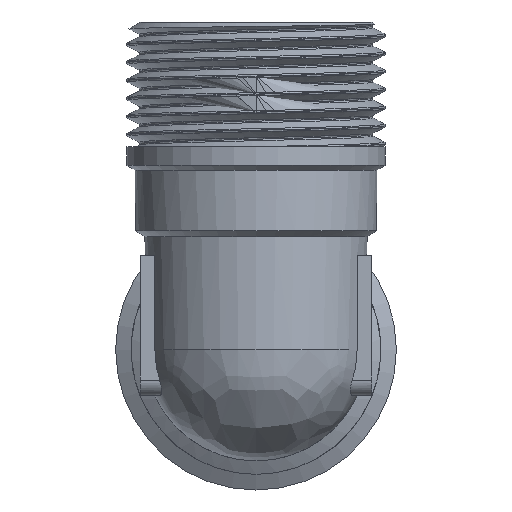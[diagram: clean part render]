
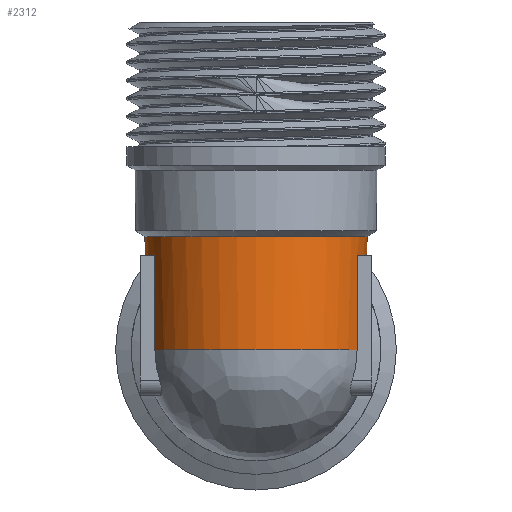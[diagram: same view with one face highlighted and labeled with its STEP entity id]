
A CAD part, front view. The second image highlights one B-rep face of the part: STEP entity #2312.
In plain terms, the highlighted cylindrical face has radius 14.25 mm (diameter 28.5 mm), a partial arc.
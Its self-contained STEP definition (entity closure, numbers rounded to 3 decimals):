
#36=ELLIPSE('',#2482,20.153,14.25);
#37=ELLIPSE('',#2487,20.153,14.25);
#59=B_SPLINE_CURVE_WITH_KNOTS('',3,(#3582,#3583,#3584,#3585),
 .UNSPECIFIED.,.F.,.F.,(4,4),(2.26,2.417),
 .UNSPECIFIED.);
#60=B_SPLINE_CURVE_WITH_KNOTS('',3,(#3605,#3606,#3607,#3608),
 .UNSPECIFIED.,.F.,.F.,(4,4),(1.418,1.575),
 .UNSPECIFIED.);
#196=CYLINDRICAL_SURFACE('',#2481,14.25);
#236=FACE_OUTER_BOUND('',#367,.T.);
#367=EDGE_LOOP('',(#1634,#1635,#1636,#1637,#1638,#1639,#1640,#1641,#1642,
#1643,#1644,#1645,#1646,#1647));
#513=LINE('',#3591,#681);
#514=LINE('',#3594,#682);
#515=LINE('',#3596,#683);
#516=LINE('',#3600,#684);
#681=VECTOR('',#2760,10.);
#682=VECTOR('',#2763,10.);
#683=VECTOR('',#2764,10.);
#684=VECTOR('',#2767,10.);
#857=CIRCLE('',#2478,14.25);
#859=CIRCLE('',#2480,14.25);
#860=CIRCLE('',#2483,14.25);
#861=CIRCLE('',#2484,14.25);
#862=CIRCLE('',#2485,14.25);
#863=CIRCLE('',#2486,14.25);
#984=VERTEX_POINT('',#3476);
#985=VERTEX_POINT('',#3481);
#996=VERTEX_POINT('',#3569);
#997=VERTEX_POINT('',#3574);
#998=VERTEX_POINT('',#3581);
#999=VERTEX_POINT('',#3586);
#1000=VERTEX_POINT('',#3588);
#1001=VERTEX_POINT('',#3590);
#1002=VERTEX_POINT('',#3592);
#1003=VERTEX_POINT('',#3595);
#1004=VERTEX_POINT('',#3597);
#1005=VERTEX_POINT('',#3599);
#1006=VERTEX_POINT('',#3601);
#1007=VERTEX_POINT('',#3603);
#1241=EDGE_CURVE('',#985,#984,#857,.T.);
#1253=EDGE_CURVE('',#997,#996,#859,.T.);
#1255=EDGE_CURVE('',#984,#998,#59,.T.);
#1256=EDGE_CURVE('',#999,#998,#36,.T.);
#1257=EDGE_CURVE('',#999,#1000,#860,.T.);
#1258=EDGE_CURVE('',#1000,#1001,#513,.T.);
#1259=EDGE_CURVE('',#1001,#1002,#861,.T.);
#1260=EDGE_CURVE('',#1002,#997,#514,.T.);
#1261=EDGE_CURVE('',#996,#1003,#515,.T.);
#1262=EDGE_CURVE('',#1003,#1004,#862,.T.);
#1263=EDGE_CURVE('',#1004,#1005,#516,.T.);
#1264=EDGE_CURVE('',#1005,#1006,#863,.T.);
#1265=EDGE_CURVE('',#1007,#1006,#37,.T.);
#1266=EDGE_CURVE('',#1007,#985,#60,.T.);
#1634=ORIENTED_EDGE('',*,*,#1241,.T.);
#1635=ORIENTED_EDGE('',*,*,#1255,.T.);
#1636=ORIENTED_EDGE('',*,*,#1256,.F.);
#1637=ORIENTED_EDGE('',*,*,#1257,.T.);
#1638=ORIENTED_EDGE('',*,*,#1258,.T.);
#1639=ORIENTED_EDGE('',*,*,#1259,.T.);
#1640=ORIENTED_EDGE('',*,*,#1260,.T.);
#1641=ORIENTED_EDGE('',*,*,#1253,.T.);
#1642=ORIENTED_EDGE('',*,*,#1261,.T.);
#1643=ORIENTED_EDGE('',*,*,#1262,.T.);
#1644=ORIENTED_EDGE('',*,*,#1263,.T.);
#1645=ORIENTED_EDGE('',*,*,#1264,.T.);
#1646=ORIENTED_EDGE('',*,*,#1265,.F.);
#1647=ORIENTED_EDGE('',*,*,#1266,.T.);
#2312=ADVANCED_FACE('',(#236),#196,.T.);
#2478=AXIS2_PLACEMENT_3D('',#3482,#2748,#2749);
#2480=AXIS2_PLACEMENT_3D('',#3575,#2752,#2753);
#2481=AXIS2_PLACEMENT_3D('',#3580,#2754,#2755);
#2482=AXIS2_PLACEMENT_3D('',#3587,#2756,#2757);
#2483=AXIS2_PLACEMENT_3D('',#3589,#2758,#2759);
#2484=AXIS2_PLACEMENT_3D('',#3593,#2761,#2762);
#2485=AXIS2_PLACEMENT_3D('',#3598,#2765,#2766);
#2486=AXIS2_PLACEMENT_3D('',#3602,#2768,#2769);
#2487=AXIS2_PLACEMENT_3D('',#3604,#2770,#2771);
#2748=DIRECTION('center_axis',(0.,0.,-1.));
#2749=DIRECTION('ref_axis',(-1.,0.,0.));
#2752=DIRECTION('center_axis',(0.,0.,1.));
#2753=DIRECTION('ref_axis',(-1.,0.,0.));
#2754=DIRECTION('center_axis',(0.,0.,1.));
#2755=DIRECTION('ref_axis',(0.,-1.,0.));
#2756=DIRECTION('center_axis',(0.,0.707,-0.707));
#2757=DIRECTION('ref_axis',(0.,-0.707,-0.707));
#2758=DIRECTION('center_axis',(0.,0.,1.));
#2759=DIRECTION('ref_axis',(-1.,0.,0.));
#2760=DIRECTION('',(0.,0.,1.));
#2761=DIRECTION('center_axis',(0.,0.,1.));
#2762=DIRECTION('ref_axis',(-1.,0.,0.));
#2763=DIRECTION('',(0.,0.,-1.));
#2764=DIRECTION('',(0.,0.,1.));
#2765=DIRECTION('center_axis',(0.,0.,1.));
#2766=DIRECTION('ref_axis',(-1.,0.,0.));
#2767=DIRECTION('',(0.,0.,-1.));
#2768=DIRECTION('center_axis',(0.,0.,1.));
#2769=DIRECTION('ref_axis',(-1.,0.,0.));
#2770=DIRECTION('center_axis',(0.,0.707,-0.707));
#2771=DIRECTION('ref_axis',(0.,-0.707,-0.707));
#3476=CARTESIAN_POINT('',(-3.312,-41.64,14.5));
#3481=CARTESIAN_POINT('',(3.312,-41.64,14.5));
#3482=CARTESIAN_POINT('Origin',(0.,-55.5,14.5));
#3569=CARTESIAN_POINT('',(12.959,-61.426,0.));
#3574=CARTESIAN_POINT('',(-12.959,-61.426,0.));
#3575=CARTESIAN_POINT('Origin',(0.,-55.5,0.));
#3580=CARTESIAN_POINT('Origin',(0.,-55.5,0.));
#3581=CARTESIAN_POINT('',(-4.562,-42.,13.5));
#3582=CARTESIAN_POINT('Ctrl Pts',(-3.312,-41.64,14.5));
#3583=CARTESIAN_POINT('Ctrl Pts',(-3.767,-41.749,14.202));
#3584=CARTESIAN_POINT('Ctrl Pts',(-4.188,-41.873,13.858));
#3585=CARTESIAN_POINT('Ctrl Pts',(-4.562,-42.,13.5));
#3586=CARTESIAN_POINT('',(-12.878,-49.4,6.1));
#3587=CARTESIAN_POINT('Origin',(0.,-55.5,0.));
#3588=CARTESIAN_POINT('',(-12.891,-49.426,6.1));
#3589=CARTESIAN_POINT('Origin',(0.,-55.5,6.1));
#3590=CARTESIAN_POINT('',(-12.891,-49.426,12.1));
#3591=CARTESIAN_POINT('',(-12.891,-49.426,0.));
#3592=CARTESIAN_POINT('',(-12.959,-61.426,12.1));
#3593=CARTESIAN_POINT('Origin',(0.,-55.5,12.1));
#3594=CARTESIAN_POINT('',(-12.959,-61.426,0.));
#3595=CARTESIAN_POINT('',(12.959,-61.426,12.1));
#3596=CARTESIAN_POINT('',(12.959,-61.426,0.));
#3597=CARTESIAN_POINT('',(12.891,-49.426,12.1));
#3598=CARTESIAN_POINT('Origin',(0.,-55.5,12.1));
#3599=CARTESIAN_POINT('',(12.891,-49.426,6.1));
#3600=CARTESIAN_POINT('',(12.891,-49.426,0.));
#3601=CARTESIAN_POINT('',(12.878,-49.4,6.1));
#3602=CARTESIAN_POINT('Origin',(0.,-55.5,6.1));
#3603=CARTESIAN_POINT('',(4.562,-42.,13.5));
#3604=CARTESIAN_POINT('Origin',(0.,-55.5,0.));
#3605=CARTESIAN_POINT('Ctrl Pts',(4.562,-42.,13.5));
#3606=CARTESIAN_POINT('Ctrl Pts',(4.188,-41.873,13.858));
#3607=CARTESIAN_POINT('Ctrl Pts',(3.767,-41.749,14.202));
#3608=CARTESIAN_POINT('Ctrl Pts',(3.312,-41.64,14.5));
